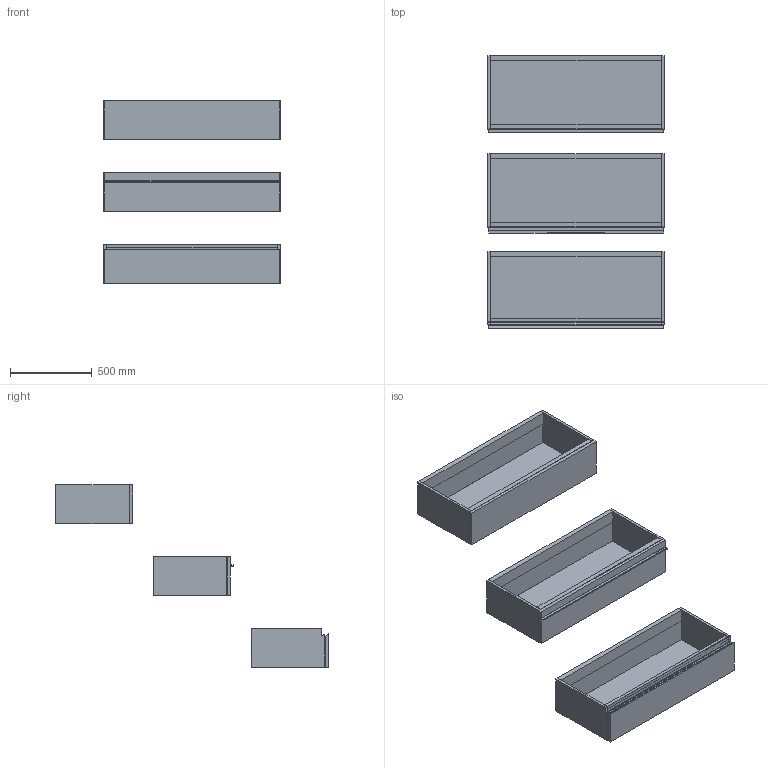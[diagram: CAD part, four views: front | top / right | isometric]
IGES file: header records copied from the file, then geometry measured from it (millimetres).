
Start section: Data from Parasolid IGES Translator 19.0.9, Copyright(c) 2006 Siemens PL M Software. All Rights Reserved.
Global section: file name: noorth-SI-H 24 D 47 W 108_8287.igs; native system: By Siemens PLM Incorporated; preprocessor: XPlus GENERIC/IGES 19.0.9; author: Noname; organization: Noname; date: 20200530.113303; units: metre
Bounding box: 1080 x 1669.1 x 1120.01 mm (x, y, z)
Volume: 57947446.9 mm3; surface area: 8509841.9 mm2
Topology: 23 solids, 23 shells, 196 faces, 418 edges, 258 vertices
Faces by surface type: plane 152, extrusion 16, bspline 16, cylinder 12
